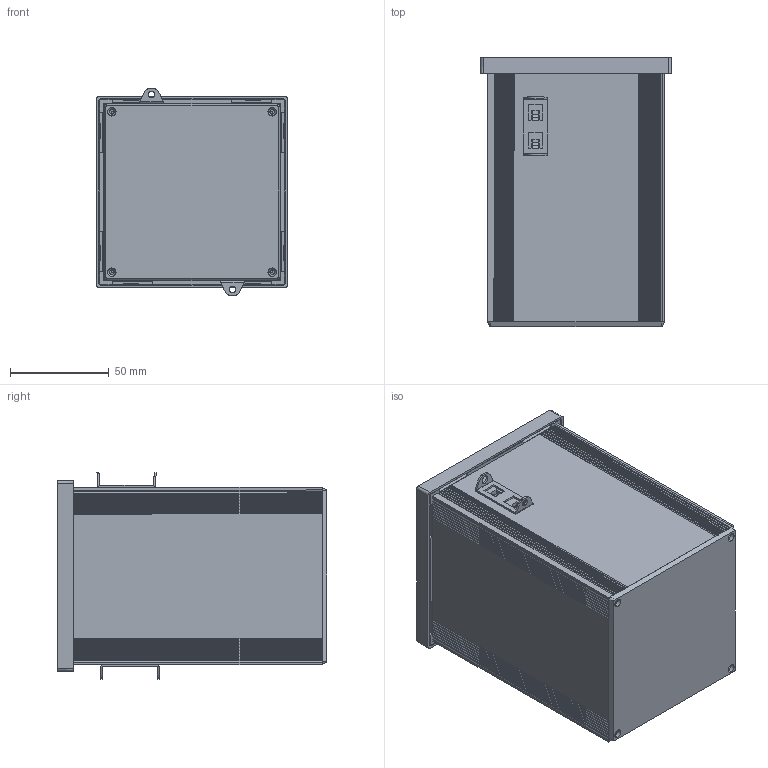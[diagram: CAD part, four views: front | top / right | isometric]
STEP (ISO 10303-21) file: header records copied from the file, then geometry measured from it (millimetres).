
FILE_DESCRIPTION (( 'STEP AP203' ), '1' );
FILE_NAME ('PT-260-0-0.STEP', '2020-06-15T09:21:48', ( '' ), ( '' ), 'SwSTEP 2.0', 'SolidWorks 2020', '' );
FILE_SCHEMA (( 'CONFIG_CONTROL_DESIGN' ));
Length unit declared in the file: millimetre
Products named in the file (7): PT-240-10; PT-260-0-0; PT-240-25; PT-260-15; A-52; PT-230-30; PT-260_Pcb_Sample
Assembly tree (7 placements, depth 2):
  PT-260-0-0
    PT-260-15
    PT-230-30
    PT-240-25
    PT-240-10
    A-52  x2
    PT-260_Pcb_Sample
Bounding box: 96.7 x 136.2 x 104.65 mm (x, y, z)
Volume: 161774.6 mm3; surface area: 173926.1 mm2
Topology: 7 solids, 7 shells, 735 faces, 2034 edges, 1332 vertices
Faces by surface type: plane 613, cylinder 74, cone 32, bspline 16
Entity records: 21954 total; most frequent: CARTESIAN_POINT 4070, ORIENTED_EDGE 3694, DIRECTION 3285, EDGE_CURVE 1847, VECTOR 1675, LINE 1675, VERTEX_POINT 1214, AXIS2_PLACEMENT_3D 805
